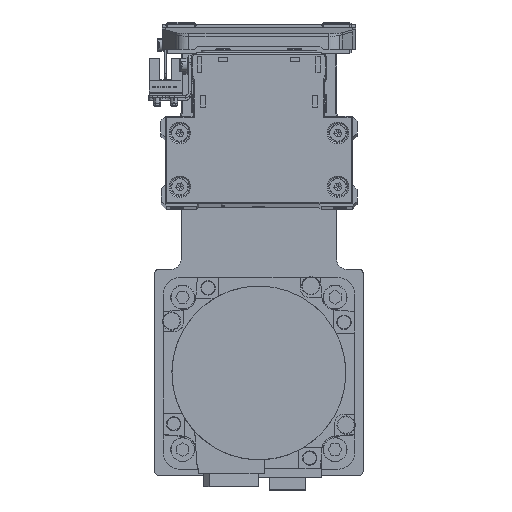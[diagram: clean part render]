
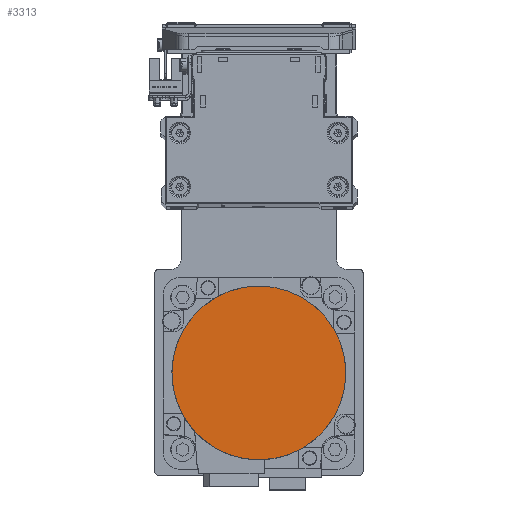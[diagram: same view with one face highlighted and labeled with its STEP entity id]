
A CAD part, top view. The second image highlights one B-rep face of the part: STEP entity #3313.
In plain terms, the highlighted planar face has unit normal (0, 0, 1) as drawn and (0, 0, -1) by its records, which use the part's own axes.
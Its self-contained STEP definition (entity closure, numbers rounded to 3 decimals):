
#1634 = EDGE_LOOP ( 'NONE', ( #8640, #32865 ) ) ;
#3313 = ADVANCED_FACE ( 'NONE', ( #10513 ), #22742, .F. ) ;
#3410 = DIRECTION ( 'NONE',  ( 0., 1., 0. ) ) ;
#3546 = CARTESIAN_POINT ( 'NONE',  ( 0., -36.3, -122.2 ) ) ;
#7492 = DIRECTION ( 'NONE',  ( 0., 0., 1. ) ) ;
#8640 = ORIENTED_EDGE ( 'NONE', *, *, #13640, .F. ) ;
#9709 = AXIS2_PLACEMENT_3D ( 'NONE', #12304, #24551, #36791 ) ;
#10513 = FACE_OUTER_BOUND ( 'NONE', #1634, .T. ) ;
#10987 = AXIS2_PLACEMENT_3D ( 'NONE', #34987, #7492, #19715 ) ;
#12012 = CARTESIAN_POINT ( 'NONE',  ( 0., 36.3, -122.2 ) ) ;
#12304 = CARTESIAN_POINT ( 'NONE',  ( 0., 0., -122.2 ) ) ;
#13640 = EDGE_CURVE ( 'NONE', #17504, #39566, #19013, .T. ) ;
#17504 = VERTEX_POINT ( 'NONE', #12012 ) ;
#18640 = CARTESIAN_POINT ( 'NONE',  ( 0., 0., -122.2 ) ) ;
#19013 = CIRCLE ( 'NONE', #24155, 36.3 ) ;
#19715 = DIRECTION ( 'NONE',  ( 1., 0., 0. ) ) ;
#22742 = PLANE ( 'NONE',  #10987 ) ;
#24155 = AXIS2_PLACEMENT_3D ( 'NONE', #18640, #30894, #3410 ) ;
#24551 = DIRECTION ( 'NONE',  ( 0., 0., 1. ) ) ;
#27006 = CIRCLE ( 'NONE', #9709, 36.3 ) ;
#30894 = DIRECTION ( 'NONE',  ( 0., 0., 1. ) ) ;
#32865 = ORIENTED_EDGE ( 'NONE', *, *, #33911, .F. ) ;
#33911 = EDGE_CURVE ( 'NONE', #39566, #17504, #27006, .T. ) ;
#34987 = CARTESIAN_POINT ( 'NONE',  ( 0., 0., -122.2 ) ) ;
#36791 = DIRECTION ( 'NONE',  ( 0., -1., 0. ) ) ;
#39566 = VERTEX_POINT ( 'NONE', #3546 ) ;
